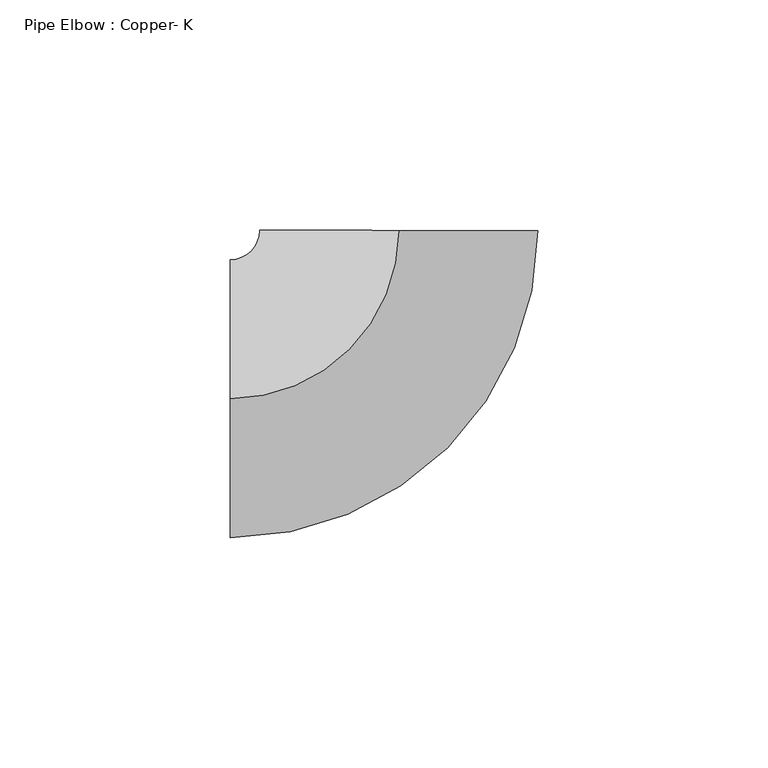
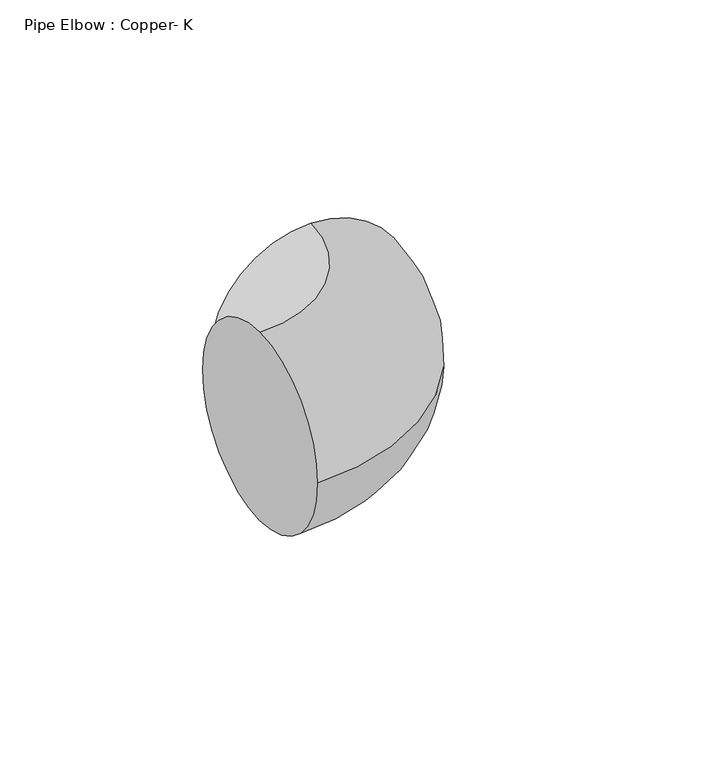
"""IFC4 building model written with IfcOpenShell, lengths in millimetres: pipe fitting geometry, Pipe Elbow : Copper- K."""

import ifcopenshell
import ifcopenshell.guid

model = None  # the IFC model being written
_history = None  # IfcOwnerHistory: only IFC2X3 demands one
_inside = {}  # id of a spatial element -> (the spatial element, [elements in it])
_under = {}  # id of a project, library or spatial element -> (it, [spatial elements below it])
_declared = {}  # id of a project -> (the project, [libraries it declares])
_typed = {}  # id of a type object -> (the type object, [elements of that type])
_made_of = {}  # id of a material, layer set ... -> (it, [elements and type objects made of it])


def new_model(schema):
    """Start an empty IFC model of exactly this schema.

    Asked for "IFC4X3", IfcOpenShell would pick the latest addendum, in which some entities
    have other attributes; the version numbers below select the first issue.
    IFC2X3 requires an IfcOwnerHistory on every rooted entity: one is made here for all.
    """
    global model, _history
    if schema == "IFC4X3":
        model = ifcopenshell.file(schema_version=(4, 3, 0, 0))
    else:
        model = ifcopenshell.file(schema=schema)
    _inside.clear()
    _under.clear()
    _declared.clear()
    _typed.clear()
    _made_of.clear()
    _history = None
    if model.schema == "IFC2X3":
        org = make("IfcOrganization", Name="unknown")
        user = make(
            "IfcPersonAndOrganization",
            ThePerson=make("IfcPerson", FamilyName="unknown"),
            TheOrganization=org,
        )
        app = make(
            "IfcApplication",
            ApplicationDeveloper=org,
            Version="unknown",
            ApplicationFullName="unknown",
            ApplicationIdentifier="unknown",
        )
        _history = make(
            "IfcOwnerHistory",
            OwningUser=user,
            OwningApplication=app,
            ChangeAction="ADDED",
            CreationDate=0,
        )
    return model


def make(cls, **values):
    """One entity of the class cls with the attributes given. An attribute that is None is left unset."""
    return model.create_entity(
        cls, **{name: value for name, value in values.items() if value is not None}
    )


def rooted(cls, **values):
    """An entity with a GlobalId (a new one), such as an element, a storey or a relation."""
    return make(cls, GlobalId=ifcopenshell.guid.new(), OwnerHistory=_history, **values)


def si_unit(unit_type, name, prefix=None):
    """IfcSIUnit, for example si_unit("LENGTHUNIT", "METRE", prefix="MILLI")."""
    return make("IfcSIUnit", UnitType=unit_type, Prefix=prefix, Name=name)


def assignment(units):
    """IfcUnitAssignment: the units of a project."""
    return None if units is None else make("IfcUnitAssignment", Units=units)


def point(xyz):
    """IfcCartesianPoint."""
    return None if xyz is None else make("IfcCartesianPoint", Coordinates=xyz)


def direction(xyz):
    """IfcDirection."""
    return None if xyz is None else make("IfcDirection", DirectionRatios=xyz)


def frame(location, z_axis=None, x_axis=None):
    """IfcAxis2Placement3D, a coordinate frame: its origin and axes. An axis left out is left unset."""
    return make(
        "IfcAxis2Placement3D",
        Location=point(location),
        Axis=direction(z_axis),
        RefDirection=direction(x_axis),
    )


def origin():
    """The frame at (0, 0, 0) with its axes left unset."""
    return frame((0.0, 0.0, 0.0))


def place(relative_to, where):
    """IfcLocalPlacement: puts the frame where relative to a parent placement (None: the world)."""
    return make(
        "IfcLocalPlacement", PlacementRelTo=relative_to, RelativePlacement=where
    )


def context(
    kind, dimensions, precision=None, world=None, true_north=None, identifier=None
):
    """IfcGeometricRepresentationContext, for example the 3D "Model" context."""
    return make(
        "IfcGeometricRepresentationContext",
        ContextIdentifier=identifier,
        ContextType=kind,
        CoordinateSpaceDimension=dimensions,
        Precision=precision,
        WorldCoordinateSystem=world,
        TrueNorth=true_north,
    )


def project(units=None, contexts=None):
    """IfcProject with its units and contexts."""
    return rooted(
        "IfcProject",
        Name="project",
        RepresentationContexts=contexts,
        UnitsInContext=assignment(units),
    )


def spatial(cls, under=None, at=None, **own):
    """A site, building, storey or space (cls), placed at a placement, below another one or the project."""
    s = rooted(cls, ObjectPlacement=at, **own)
    if under is not None:
        _under.setdefault(under.id(), (under, []))[1].append(s)
    return s


def circle_curve(where, radius):
    """IfcCircle in the frame where."""
    return make("IfcCircle", Position=where, Radius=radius)


def ellipse_curve(where, semi_axis1, semi_axis2):
    """IfcEllipse in the frame where."""
    return make(
        "IfcEllipse", Position=where, SemiAxis1=semi_axis1, SemiAxis2=semi_axis2
    )


def trimmed(basis, trim1, trim2, sense, master):
    """IfcTrimmedCurve: the piece of a basis curve between two trims."""
    return make(
        "IfcTrimmedCurve",
        BasisCurve=basis,
        Trim1=trim1,
        Trim2=trim2,
        SenseAgreement=sense,
        MasterRepresentation=master,
    )


def shape(context_of_items, identifier, shape_type, items):
    """IfcShapeRepresentation: the items that make up one representation, for example the "Body"."""
    return make(
        "IfcShapeRepresentation",
        ContextOfItems=context_of_items,
        RepresentationIdentifier=identifier,
        RepresentationType=shape_type,
        Items=items,
    )


def source(mapping_origin, context_of_items, identifier, shape_type, items):
    """IfcRepresentationMap: a shape defined once, which mapped items show again and again."""
    return make(
        "IfcRepresentationMap",
        MappingOrigin=mapping_origin,
        MappedRepresentation=shape(context_of_items, identifier, shape_type, items),
    )


def transform(
    local_origin,
    x_axis=None,
    y_axis=None,
    z_axis=None,
    scale=None,
    scale2=None,
    scale3=None,
    uniform=True,
):
    """IfcCartesianTransformationOperator3D, or its non-uniform kind. x_axis, y_axis, z_axis: its Axis1, 2, 3."""
    if uniform:
        return make(
            "IfcCartesianTransformationOperator3D",
            Axis1=direction(x_axis),
            Axis2=direction(y_axis),
            LocalOrigin=point(local_origin),
            Scale=scale,
            Axis3=direction(z_axis),
        )
    return make(
        "IfcCartesianTransformationOperator3DnonUniform",
        Axis1=direction(x_axis),
        Axis2=direction(y_axis),
        LocalOrigin=point(local_origin),
        Scale=scale,
        Axis3=direction(z_axis),
        Scale2=scale2,
        Scale3=scale3,
    )


def mapped(mapping_source, mapping_target):
    """IfcMappedItem: shows the shape of a source again, moved by a transform."""
    return make(
        "IfcMappedItem", MappingSource=mapping_source, MappingTarget=mapping_target
    )


def made_of(thing, what):
    """Note that an element or type object is made of a material, layer set ...; save() writes the relation."""
    if what is not None:
        _made_of.setdefault(what.id(), (what, []))[1].append(thing)
    return thing


def element(
    cls,
    number,
    at=None,
    inside=None,
    cuts=None,
    type_object=None,
    material=None,
    context=None,
    identifier="Body",
    shape_type=None,
    held_by="IfcProductDefinitionShape",
    body=None,
    shapes=None,
    **own,
):
    """One element of the class cls, such as IfcWall. Its Tag is "e" and its number.

    at: its placement. inside: the storey or other place that contains it. cuts: it is an
    opening in that element (IfcRelVoidsElement). A single representation is given by context,
    identifier, shape_type and body (its items); several are given by shapes. held_by: the class
    of the entity that holds the representations. save() writes the other relations.
    """
    e = rooted(cls, Tag="e%d" % number, ObjectPlacement=at, **own)
    if body is not None:
        shapes = [shape(context, identifier, shape_type, body)]
    if shapes is not None:
        e.Representation = make(held_by, Representations=shapes)
    if inside is not None:
        _inside.setdefault(inside.id(), (inside, []))[1].append(e)
    if cuts is not None:
        rooted(
            "IfcRelVoidsElement", RelatingBuildingElement=cuts, RelatedOpeningElement=e
        )
    if type_object is not None:
        _typed.setdefault(type_object.id(), (type_object, []))[1].append(e)
    return made_of(e, material)


def aggregate(whole, parts):
    """IfcRelAggregates: a whole, such as a stair, and the parts it consists of."""
    return rooted("IfcRelAggregates", RelatingObject=whole, RelatedObjects=parts)


def save(model, path):
    """Write the relations noted so far, then the file.

    IfcRelAggregates (storeys below a building ...), IfcRelContainedInSpatialStructure (elements
    in a storey), IfcRelDefinesByType, IfcRelAssociatesMaterial and IfcRelDeclares: one each for
    every whole, place, type object, material and project.
    """
    for whole, parts in _under.values():
        aggregate(whole, parts)
    for where, things in _inside.values():
        rooted(
            "IfcRelContainedInSpatialStructure",
            RelatedElements=things,
            RelatingStructure=where,
        )
    for kind, things in _typed.values():
        rooted("IfcRelDefinesByType", RelatedObjects=things, RelatingType=kind)
    for what, things in _made_of.values():
        rooted("IfcRelAssociatesMaterial", RelatedObjects=things, RelatingMaterial=what)
    for by, libraries in _declared.values():
        rooted("IfcRelDeclares", RelatingContext=by, RelatedDefinitions=libraries)
    model.write(path)


def plane_surface(at):
    """IfcPlane: the flat surface through the origin of the frame at, square to its z axis."""
    return make("IfcPlane", Position=at)


def revolved_surface(curve, axis_point, axis_direction):
    """IfcSurfaceOfRevolution: the curve turned about the line through axis_point along axis_direction."""
    return make(
        "IfcSurfaceOfRevolution",
        SweptCurve=make("IfcArbitraryOpenProfileDef", ProfileType="CURVE", Curve=curve),
        AxisPosition=make("IfcAxis1Placement", Location=point(axis_point), Axis=direction(axis_direction)),
    )


def advanced_brep(points, edges, surfaces, faces):
    """IfcAdvancedBrep: a solid bounded by faces that lie on surfaces and meet in shared edges.

    An edge is (start, end): straight between two places in points (the first is 0);
    or (start, end, curve); or (start, end, curve, False) where it runs against its curve.
    A face is (place in surfaces, loops), or (place, loops, False) where it looks against
    its surface's normal. A loop lists edges by number (the first is 1), with a minus sign
    where the edge is run from its end to its start. The first loop is the outer one.
    """
    corners = [point(p) for p in points]
    vertices = [make("IfcVertexPoint", VertexGeometry=c) for c in corners]
    made = []
    for start, end, *more in edges:
        made.append(
            make(
                "IfcEdgeCurve",
                EdgeStart=vertices[start],
                EdgeEnd=vertices[end],
                EdgeGeometry=more[0] if more else make("IfcPolyline", Points=[corners[start], corners[end]]),
                SameSense=more[1] if len(more) > 1 else True,
            )
        )
    hull = []
    for where, loops, *sense in faces:
        bounds = []
        for j, loop in enumerate(loops):
            ring = [make("IfcOrientedEdge", EdgeElement=made[abs(k) - 1], Orientation=k > 0) for k in loop]
            bounds.append(
                make(
                    "IfcFaceOuterBound" if j == 0 else "IfcFaceBound",
                    Bound=make("IfcEdgeLoop", EdgeList=ring),
                    Orientation=True,
                )
            )
        hull.append(make("IfcAdvancedFace", Bounds=bounds, FaceSurface=surfaces[where], SameSense=sense[0] if sense else True))
    return make("IfcAdvancedBrep", Outer=make("IfcClosedShell", CfsFaces=hull))


def pipe_elbow_copper_k_15b800b4(model_context):
    return source(origin(), model_context, "Body", "AdvancedBrep", [
        advanced_brep(
        [(-36.4808535, 0.0, 30.1625), (-36.4808535, 30.1625, 0.0), (-36.4808535, 0.0, -30.1625), (-36.4808535, -30.1625, 0.0), (0.0316328, 36.4808398, 30.1625), (30.1941214, 36.4546857, 0.0), (0.0316328, 36.4808398, -30.1625), (-30.1308559, 36.5069939, 0.0)],
        [
            (0, 1, circle_curve(frame((-36.4808535, 0.0, 0.0), z_axis=(-1.0, 0.0, 0.0), x_axis=(0.0, 1.0, 0.0)), 30.1625)),
            (1, 2, circle_curve(frame((-36.4808535, 0.0, 0.0), z_axis=(-1.0, 0.0, 0.0), x_axis=(0.0, 1.0, 0.0)), 30.1625)),
            (2, 3, circle_curve(frame((-36.4808535, 0.0, 0.0), z_axis=(-1.0, 0.0, 0.0), x_axis=(0.0, 1.0, 0.0)), 30.1625)),
            (3, 0, circle_curve(frame((-36.4808535, 0.0, 0.0), z_axis=(-1.0, 0.0, 0.0), x_axis=(0.0, 1.0, 0.0)), 30.1625)),
            (4, 5, circle_curve(frame((0.0316328, 36.4808398, 0.0), z_axis=(0.0008671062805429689, 0.9999996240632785, 0.0), x_axis=(-0.9999996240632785, 0.0008671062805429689, 0.0)), 30.1625)),
            (5, 6, circle_curve(frame((0.0316328, 36.4808398, 0.0), z_axis=(0.0008671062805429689, 0.9999996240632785, 0.0), x_axis=(-0.9999996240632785, 0.0008671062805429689, 0.0)), 30.1625)),
            (6, 7, circle_curve(frame((0.0316328, 36.4808398, 0.0), z_axis=(0.0008671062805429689, 0.9999996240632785, 0.0), x_axis=(-0.9999996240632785, 0.0008671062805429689, 0.0)), 30.1625)),
            (7, 4, circle_curve(frame((0.0316328, 36.4808398, 0.0), z_axis=(0.0008671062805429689, 0.9999996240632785, 0.0), x_axis=(-0.9999996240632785, 0.0008671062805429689, 0.0)), 30.1625)),
            (7, 1, circle_curve(frame((-36.4808535, 36.5125, 0.0), z_axis=(0.0, 0.0, -1.0), x_axis=(0.0, -1.0, 0.0)), 6.35)),
            (0, 4, circle_curve(frame((-36.4808535, 36.5125, 30.1625), z_axis=(0.0, 0.0, 1.0), x_axis=(0.0, -1.0, 0.0)), 36.5125)),
            (6, 2, circle_curve(frame((-36.4808535, 36.5125, -30.1625), z_axis=(0.0, 0.0, -1.0), x_axis=(0.0, -1.0, 0.0)), 36.5125)),
            (5, 3, circle_curve(frame((-36.4808535, 36.5125, 0.0), z_axis=(0.0, 0.0, -1.0), x_axis=(0.0, -1.0, 0.0)), 66.675)),
        ],
        [
            plane_surface(frame((-36.4808535, 0.0, 0.0), z_axis=(-1.0, 0.0, 0.0), x_axis=(0.0, 0.0, 1.0))),
            plane_surface(frame((0.0316328, 36.4808398, 0.0), z_axis=(0.0008671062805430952, 0.9999996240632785, 0.0), x_axis=(0.0, 0.0, 1.0))),
            revolved_surface(trimmed(ellipse_curve(frame((-36.4808535, 0.0, 0.0), z_axis=(-1.0, 0.0, 0.0), x_axis=(0.0, 1.0, 0.0)), 30.1625, 30.1625), [point((-36.4808535, 0.0, 30.1625))], [point((-36.4808535, 30.1625, 0.0))], True, "CARTESIAN"), (-36.4808535, 36.5125, 0.0), (0.0, 0.0, 1.0)),
            revolved_surface(trimmed(ellipse_curve(frame((-36.4808535, 0.0, 0.0), z_axis=(-1.0, 0.0, 0.0), x_axis=(0.0, 1.0, 0.0)), 30.1625, 30.1625), [point((-36.4808535, 30.1625, 0.0))], [point((-36.4808535, 0.0, -30.1625))], True, "CARTESIAN"), (-36.4808535, 36.5125, 0.0), (0.0, 0.0, 1.0)),
            revolved_surface(trimmed(ellipse_curve(frame((-36.4808535, 0.0, 0.0), z_axis=(-1.0, 0.0, 0.0), x_axis=(0.0, 1.0, 0.0)), 30.1625, 30.1625), [point((-36.4808535, 0.0, -30.1625))], [point((-36.4808535, -30.1625, 0.0))], True, "CARTESIAN"), (-36.4808535, 36.5125, 0.0), (0.0, 0.0, 1.0)),
            revolved_surface(trimmed(ellipse_curve(frame((-36.4808535, 0.0, 0.0), z_axis=(-1.0, 0.0, 0.0), x_axis=(0.0, 1.0, 0.0)), 30.1625, 30.1625), [point((-36.4808535, -30.1625, 0.0))], [point((-36.4808535, 0.0, 30.1625))], True, "CARTESIAN"), (-36.4808535, 36.5125, 0.0), (0.0, 0.0, 1.0)),
        ],
        [
            (0, [[1, 2, 3, 4]]),
            (1, [[5, 6, 7, 8]]),
            (2, [[9, -1, 10, -8]]),
            (3, [[11, -2, -9, -7]]),
            (4, [[12, -3, -11, -6]]),
            (5, [[-10, -4, -12, -5]]),
        ],
    ),
        advanced_brep(
        [(-36.4808535, 0.0, 30.1625), (-36.4808535, 30.1625, 0.0), (-36.4808535, 0.0, -30.1625), (-36.4808535, -30.1625, 0.0), (0.0316328, 36.4808398, 30.1625), (30.1941214, 36.4546857, 0.0), (0.0316328, 36.4808398, -30.1625), (-30.1308559, 36.5069939, 0.0)],
        [
            (0, 1, circle_curve(frame((-36.4808535, 0.0, 0.0), z_axis=(-1.0, 0.0, 0.0), x_axis=(0.0, 1.0, 0.0)), 30.1625)),
            (1, 2, circle_curve(frame((-36.4808535, 0.0, 0.0), z_axis=(-1.0, 0.0, 0.0), x_axis=(0.0, 1.0, 0.0)), 30.1625)),
            (2, 3, circle_curve(frame((-36.4808535, 0.0, 0.0), z_axis=(-1.0, 0.0, 0.0), x_axis=(0.0, 1.0, 0.0)), 30.1625)),
            (3, 0, circle_curve(frame((-36.4808535, 0.0, 0.0), z_axis=(-1.0, 0.0, 0.0), x_axis=(0.0, 1.0, 0.0)), 30.1625)),
            (4, 5, circle_curve(frame((0.0316328, 36.4808398, 0.0), z_axis=(0.0008671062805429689, 0.9999996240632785, 0.0), x_axis=(-0.9999996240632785, 0.0008671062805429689, 0.0)), 30.1625)),
            (5, 6, circle_curve(frame((0.0316328, 36.4808398, 0.0), z_axis=(0.0008671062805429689, 0.9999996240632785, 0.0), x_axis=(-0.9999996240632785, 0.0008671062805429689, 0.0)), 30.1625)),
            (6, 7, circle_curve(frame((0.0316328, 36.4808398, 0.0), z_axis=(0.0008671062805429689, 0.9999996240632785, 0.0), x_axis=(-0.9999996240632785, 0.0008671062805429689, 0.0)), 30.1625)),
            (7, 4, circle_curve(frame((0.0316328, 36.4808398, 0.0), z_axis=(0.0008671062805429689, 0.9999996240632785, 0.0), x_axis=(-0.9999996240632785, 0.0008671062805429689, 0.0)), 30.1625)),
            (7, 1, circle_curve(frame((-36.4808535, 36.5125, 0.0), z_axis=(0.0, 0.0, -1.0), x_axis=(0.0, -1.0, 0.0)), 6.35)),
            (0, 4, circle_curve(frame((-36.4808535, 36.5125, 30.1625), z_axis=(0.0, 0.0, 1.0), x_axis=(0.0, -1.0, 0.0)), 36.5125)),
            (6, 2, circle_curve(frame((-36.4808535, 36.5125, -30.1625), z_axis=(0.0, 0.0, -1.0), x_axis=(0.0, -1.0, 0.0)), 36.5125)),
            (5, 3, circle_curve(frame((-36.4808535, 36.5125, 0.0), z_axis=(0.0, 0.0, -1.0), x_axis=(0.0, -1.0, 0.0)), 66.675)),
        ],
        [
            plane_surface(frame((-36.4808535, 0.0, 0.0), z_axis=(-1.0, 0.0, 0.0), x_axis=(0.0, 0.0, 1.0))),
            plane_surface(frame((0.0316328, 36.4808398, 0.0), z_axis=(0.0008671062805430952, 0.9999996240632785, 0.0), x_axis=(0.0, 0.0, 1.0))),
            revolved_surface(trimmed(ellipse_curve(frame((-36.4808535, 0.0, 0.0), z_axis=(-1.0, 0.0, 0.0), x_axis=(0.0, 1.0, 0.0)), 30.1625, 30.1625), [point((-36.4808535, 0.0, 30.1625))], [point((-36.4808535, 30.1625, 0.0))], True, "CARTESIAN"), (-36.4808535, 36.5125, 0.0), (0.0, 0.0, 1.0)),
            revolved_surface(trimmed(ellipse_curve(frame((-36.4808535, 0.0, 0.0), z_axis=(-1.0, 0.0, 0.0), x_axis=(0.0, 1.0, 0.0)), 30.1625, 30.1625), [point((-36.4808535, 30.1625, 0.0))], [point((-36.4808535, 0.0, -30.1625))], True, "CARTESIAN"), (-36.4808535, 36.5125, 0.0), (0.0, 0.0, 1.0)),
            revolved_surface(trimmed(ellipse_curve(frame((-36.4808535, 0.0, 0.0), z_axis=(-1.0, 0.0, 0.0), x_axis=(0.0, 1.0, 0.0)), 30.1625, 30.1625), [point((-36.4808535, 0.0, -30.1625))], [point((-36.4808535, -30.1625, 0.0))], True, "CARTESIAN"), (-36.4808535, 36.5125, 0.0), (0.0, 0.0, 1.0)),
            revolved_surface(trimmed(ellipse_curve(frame((-36.4808535, 0.0, 0.0), z_axis=(-1.0, 0.0, 0.0), x_axis=(0.0, 1.0, 0.0)), 30.1625, 30.1625), [point((-36.4808535, -30.1625, 0.0))], [point((-36.4808535, 0.0, 30.1625))], True, "CARTESIAN"), (-36.4808535, 36.5125, 0.0), (0.0, 0.0, 1.0)),
        ],
        [
            (0, [[1, 2, 3, 4]]),
            (1, [[5, 6, 7, 8]]),
            (2, [[9, -1, 10, -8]]),
            (3, [[11, -2, -9, -7]]),
            (4, [[12, -3, -11, -6]]),
            (5, [[-10, -4, -12, -5]]),
        ],
    ),
    ])


if __name__ == "__main__":
    model = new_model("IFC4")
    model_context = context("Model", 3, world=origin())
    ifc_project = project(units=[si_unit("LENGTHUNIT", "METRE", prefix="MILLI")], contexts=[model_context])
    site = spatial("IfcSite", under=ifc_project)
    building = spatial("IfcBuilding", under=site)
    placement = place(None, origin())
    pipe_elbow_copper_k_shape = pipe_elbow_copper_k_15b800b4(model_context)
    element("IfcPipeFitting", 1, ObjectType="Pipe Elbow : Copper- K", at=placement, inside=building, context=model_context, shape_type="MappedRepresentation", body=[
        mapped(pipe_elbow_copper_k_shape, transform((0.0, 0.0, 0.0), x_axis=(1.0, 0.0, 0.0), y_axis=(0.0, 1.0, 0.0), z_axis=(0.0, 0.0, 1.0))),
    ])
    save(model, "model.ifc")
